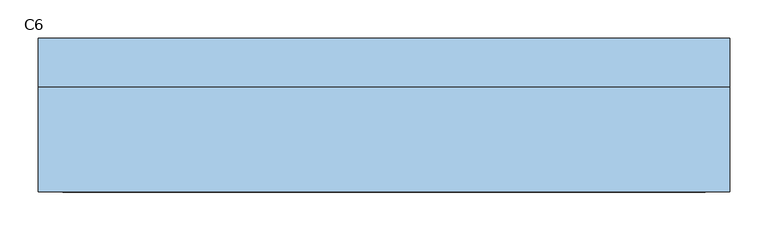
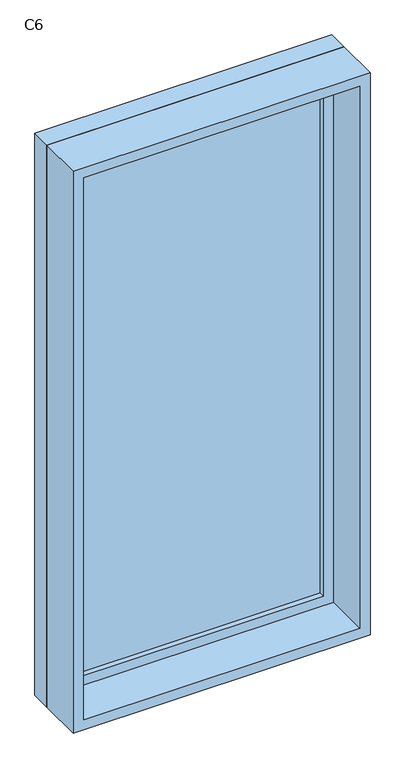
"""IFC4 building model written with IfcOpenShell, lengths in millimetres: window geometry, 固定 : C6."""

from ifc_helpers import new_model, si_unit, frame, origin, place, context, project, spatial, polyline, outline, extrude, source, transform, mapped, element, save


def c6_982aaf11(model_context):
    return source(origin(), model_context, "Body", "SweptSolid", [
        extrude(outline(polyline([(-387.0, 78.0), (387.0, 78.0), (387.0, 66.0), (-387.0, 66.0), (-387.0, 78.0)])), frame((0.0, 0.0, 963.0), z_axis=(0.0, 0.0, 1.0), x_axis=(1.0, 0.0, 0.0)), (0.0, 0.0, 1.0), 1674.0),
        extrude(outline(polyline([(2681.0, -431.0), (919.0, -431.0), (919.0, 431.0), (2681.0, 431.0), (2681.0, -431.0)]), holes=[polyline([(2637.0, -387.0), (2637.0, 387.0), (963.0, 387.0), (963.0, -387.0), (2637.0, -387.0)])]), frame((0.0, 50.0, 0.0), z_axis=(0.0, 1.0, 0.0), x_axis=(0.0, 0.0, 1.0)), (0.0, 0.0, 1.0), 44.0),
        extrude(outline(polyline([(2700.0, -450.0), (900.0, -450.0), (900.0, 450.0), (2700.0, 450.0), (2700.0, -450.0)]), holes=[polyline([(2681.0, -431.0), (2681.0, 431.0), (919.0, 431.0), (919.0, -431.0), (2681.0, -431.0)])]), frame((0.0, 50.0, 0.0), z_axis=(0.0, 1.0, 0.0), x_axis=(0.0, 0.0, 1.0)), (0.0, 0.0, 1.0), 63.0),
        extrude(outline(polyline([(2700.0, -450.0), (900.0, -450.0), (900.0, 450.0), (2700.0, 450.0), (2700.0, -450.0)]), holes=[polyline([(2668.0, -418.0), (2668.0, 418.0), (932.0, 418.0), (932.0, -418.0), (2668.0, -418.0)])]), frame((0.0, -87.0, 0.0), z_axis=(0.0, 1.0, 0.0), x_axis=(0.0, 0.0, 1.0)), (0.0, 0.0, 1.0), 137.0),
    ])


if __name__ == "__main__":
    model = new_model("IFC4")
    model_context = context("Model", 3, world=origin())
    ifc_project = project(units=[si_unit("LENGTHUNIT", "METRE", prefix="MILLI")], contexts=[model_context])
    site = spatial("IfcSite", under=ifc_project)
    building = spatial("IfcBuilding", under=site)
    placement = place(None, origin())
    c6_shape = c6_982aaf11(model_context)
    element("IfcWindow", 1, ObjectType="固定 : C6", at=placement, inside=building, context=model_context, shape_type="MappedRepresentation", body=[
        mapped(c6_shape, transform((0.0, 0.0, 0.0), x_axis=(1.0, 0.0, 0.0), y_axis=(0.0, 1.0, 0.0), z_axis=(0.0, 0.0, 1.0))),
    ])
    save(model, "model.ifc")
